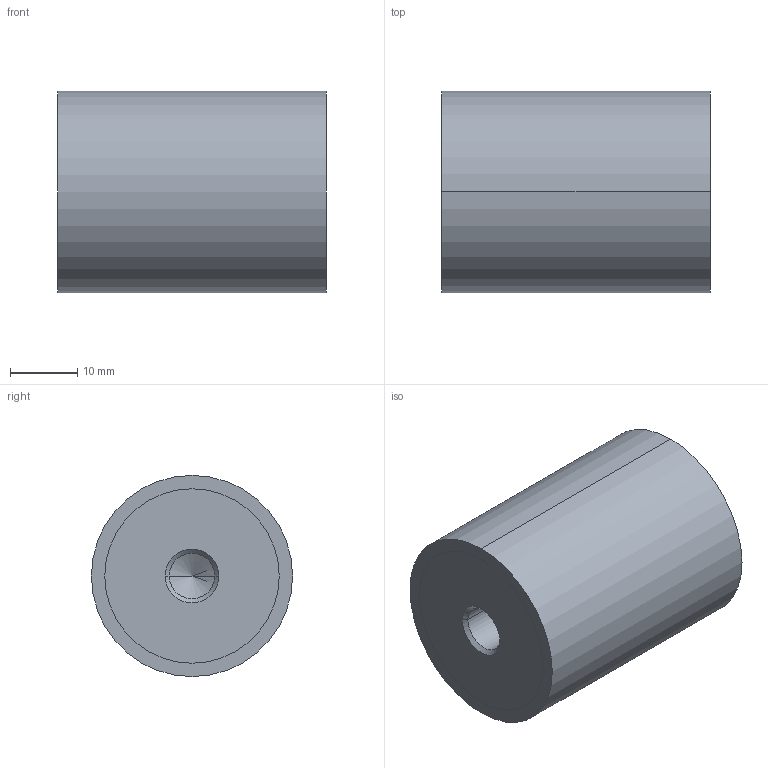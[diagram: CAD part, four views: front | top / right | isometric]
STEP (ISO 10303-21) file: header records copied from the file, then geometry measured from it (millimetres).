
FILE_DESCRIPTION (( 'STEP AP214' ), '1' );
FILE_NAME ('351-30-40-M8-EE-40.step', '2025-07-23T09:55:57', ( '' ), ( '' ), 'SwSTEP 2.0', 'SolidWorks 2022', '' );
FILE_SCHEMA (( 'AUTOMOTIVE_DESIGN' ));
Length unit declared in the file: millimetre
Products named in the file (1): 351-30-40-M8-EE-40
Bounding box: 40 x 30 x 30 mm (x, y, z)
Volume: 27557.3 mm3; surface area: 5565.9 mm2
Topology: 1 solids, 1 shells, 28 faces, 58 edges, 34 vertices
Faces by surface type: cylinder 14, cone 8, plane 6
Entity records: 844 total; most frequent: DIRECTION 144, CARTESIAN_POINT 117, ORIENTED_EDGE 108, AXIS2_PLACEMENT_3D 61, EDGE_CURVE 54, VERTEX_POINT 34, EDGE_LOOP 34, CIRCLE 32
